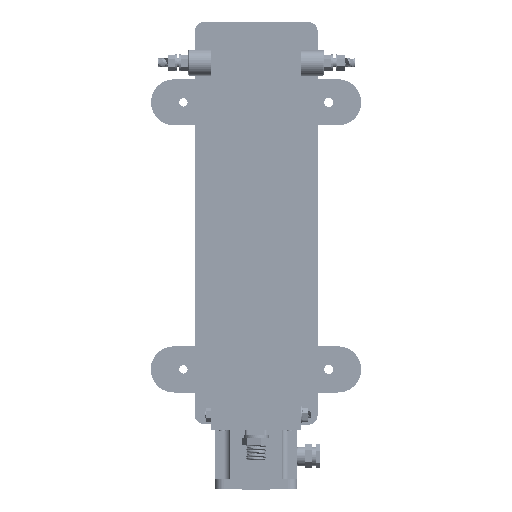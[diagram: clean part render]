
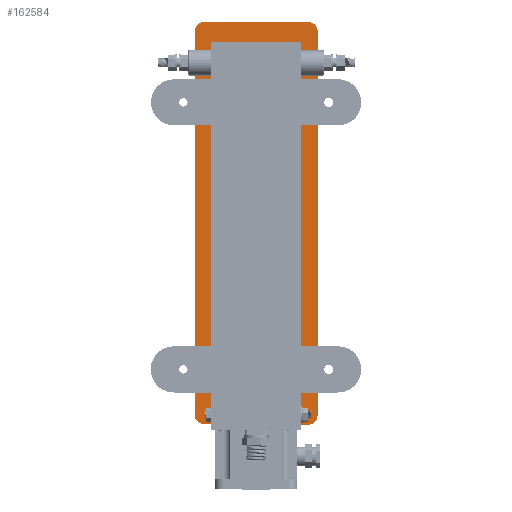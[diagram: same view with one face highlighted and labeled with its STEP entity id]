
A CAD part, left-side view. The second image highlights one B-rep face of the part: STEP entity #162584.
In plain terms, the highlighted planar face has unit normal (-1, 0, 0).
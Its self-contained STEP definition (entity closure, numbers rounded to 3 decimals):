
#2211 = CARTESIAN_POINT ( 'NONE',  ( 331.319, -372.657, 289.379 ) ) ;
#4894 = VECTOR ( 'NONE', #244620, 1000. ) ;
#8105 = CIRCLE ( 'NONE', #125494, 9.95 ) ;
#13247 = CARTESIAN_POINT ( 'NONE',  ( 331.319, -27.261, -94.53 ) ) ;
#13526 = LINE ( 'NONE', #234081, #171057 ) ;
#15995 = LINE ( 'NONE', #36580, #69657 ) ;
#18153 = CARTESIAN_POINT ( 'NONE',  ( 331.319, -37.261, 330.549 ) ) ;
#19092 = CARTESIAN_POINT ( 'NONE',  ( 331.319, -37.261, 320.549 ) ) ;
#24186 = ORIENTED_EDGE ( 'NONE', *, *, #243502, .F. ) ;
#24732 = ORIENTED_EDGE ( 'NONE', *, *, #101782, .F. ) ;
#27998 = CARTESIAN_POINT ( 'NONE',  ( 331.319, -142.261, -108.627 ) ) ;
#29601 = CARTESIAN_POINT ( 'NONE',  ( 331.319, -45.261, -104.53 ) ) ;
#29714 = LINE ( 'NONE', #119424, #268789 ) ;
#30027 = LINE ( 'NONE', #119736, #177214 ) ;
#30690 = DIRECTION ( 'NONE',  ( 0., 0., -1. ) ) ;
#32647 = DIRECTION ( 'NONE',  ( 0., 1., 0. ) ) ;
#34473 = CARTESIAN_POINT ( 'NONE',  ( 331.319, -160.261, -95.401 ) ) ;
#35147 = CARTESIAN_POINT ( 'NONE',  ( 331.319, -150.261, 330.549 ) ) ;
#36580 = CARTESIAN_POINT ( 'NONE',  ( 331.319, -150.261, -105.351 ) ) ;
#38581 = CARTESIAN_POINT ( 'NONE',  ( 331.319, -37.261, -104.53 ) ) ;
#38931 = EDGE_CURVE ( 'NONE', #142504, #286669, #147507, .T. ) ;
#43673 = ORIENTED_EDGE ( 'NONE', *, *, #138289, .F. ) ;
#45711 = CARTESIAN_POINT ( 'NONE',  ( 331.319, -150.261, -105.351 ) ) ;
#51232 = VERTEX_POINT ( 'NONE', #38581 ) ;
#56664 = CIRCLE ( 'NONE', #145886, 10. ) ;
#58039 = CARTESIAN_POINT ( 'NONE',  ( 331.319, -415.261, 308.549 ) ) ;
#63660 = VERTEX_POINT ( 'NONE', #29601 ) ;
#66053 = CARTESIAN_POINT ( 'NONE',  ( 331.319, -150.261, 320.549 ) ) ;
#69657 = VECTOR ( 'NONE', #177616, 1000. ) ;
#70016 = VERTEX_POINT ( 'NONE', #34473 ) ;
#71855 = DIRECTION ( 'NONE',  ( 0., 0., 1. ) ) ;
#83321 = DIRECTION ( 'NONE',  ( 0., 0., 1. ) ) ;
#88807 = VECTOR ( 'NONE', #30690, 1000. ) ;
#91997 = DIRECTION ( 'NONE',  ( -1., 0., 0. ) ) ;
#96966 = VERTEX_POINT ( 'NONE', #289291 ) ;
#99147 = DIRECTION ( 'NONE',  ( 0., 0., -1. ) ) ;
#101782 = EDGE_CURVE ( 'NONE', #70016, #142504, #8105, .T. ) ;
#104767 = CARTESIAN_POINT ( 'NONE',  ( 331.319, -150.311, -105.351 ) ) ;
#105404 = EDGE_CURVE ( 'NONE', #186355, #250405, #215352, .T. ) ;
#105913 = DIRECTION ( 'NONE',  ( 1., 0., 0. ) ) ;
#107054 = VERTEX_POINT ( 'NONE', #290313 ) ;
#107545 = ORIENTED_EDGE ( 'NONE', *, *, #221069, .F. ) ;
#109424 = CARTESIAN_POINT ( 'NONE',  ( 331.319, -27.261, 308.549 ) ) ;
#111126 = PLANE ( 'NONE',  #288334 ) ;
#116485 = VERTEX_POINT ( 'NONE', #18153 ) ;
#117699 = DIRECTION ( 'NONE',  ( 0., 0., 1. ) ) ;
#117944 = EDGE_CURVE ( 'NONE', #155013, #249712, #149193, .T. ) ;
#119424 = CARTESIAN_POINT ( 'NONE',  ( 331.319, -37.261, -104.53 ) ) ;
#119736 = CARTESIAN_POINT ( 'NONE',  ( 331.319, -160.261, 320.549 ) ) ;
#121479 = DIRECTION ( 'NONE',  ( 0., 0., 1. ) ) ;
#125048 = EDGE_CURVE ( 'NONE', #107054, #249712, #185288, .T. ) ;
#125494 = AXIS2_PLACEMENT_3D ( 'NONE', #284732, #261232, #83321 ) ;
#136949 = ORIENTED_EDGE ( 'NONE', *, *, #117944, .T. ) ;
#138289 = EDGE_CURVE ( 'NONE', #63660, #51232, #29714, .T. ) ;
#139160 = CARTESIAN_POINT ( 'NONE',  ( 331.319, -150.311, -95.401 ) ) ;
#139540 = CARTESIAN_POINT ( 'NONE',  ( 331.319, -45.261, 308.549 ) ) ;
#139974 = DIRECTION ( 'NONE',  ( 1., 0., 0. ) ) ;
#142504 = VERTEX_POINT ( 'NONE', #104767 ) ;
#142673 = VECTOR ( 'NONE', #197621, 1000. ) ;
#145886 = AXIS2_PLACEMENT_3D ( 'NONE', #19092, #105913, #71855 ) ;
#147507 = CIRCLE ( 'NONE', #185030, 9.95 ) ;
#148070 = EDGE_CURVE ( 'NONE', #155013, #63660, #165910, .T. ) ;
#149193 = LINE ( 'NONE', #58039, #142673 ) ;
#151010 = EDGE_CURVE ( 'NONE', #96966, #116485, #56664, .T. ) ;
#155013 = VERTEX_POINT ( 'NONE', #269578 ) ;
#155713 = DIRECTION ( 'NONE',  ( 1., 0., 0. ) ) ;
#156993 = ORIENTED_EDGE ( 'NONE', *, *, #148070, .F. ) ;
#160899 = CARTESIAN_POINT ( 'NONE',  ( 331.319, -142.261, 308.549 ) ) ;
#162001 = CARTESIAN_POINT ( 'NONE',  ( 331.319, -160.261, 320.549 ) ) ;
#162177 = CIRCLE ( 'NONE', #213848, 10. ) ;
#162584 = ADVANCED_FACE ( 'NONE', ( #246333 ), #111126, .T. ) ;
#165910 = LINE ( 'NONE', #139540, #88807 ) ;
#167830 = CARTESIAN_POINT ( 'NONE',  ( 331.319, -37.261, -94.53 ) ) ;
#171057 = VECTOR ( 'NONE', #32647, 1000. ) ;
#171276 = ORIENTED_EDGE ( 'NONE', *, *, #262113, .F. ) ;
#171795 = EDGE_CURVE ( 'NONE', #51232, #224709, #162177, .T. ) ;
#177214 = VECTOR ( 'NONE', #99147, 1000. ) ;
#177616 = DIRECTION ( 'NONE',  ( 0., 1., 0. ) ) ;
#182399 = EDGE_LOOP ( 'NONE', ( #136949, #195617, #24186, #289722, #24732, #107545, #203750, #269101, #283230, #171276, #214855, #43673, #156993 ) ) ;
#184109 = DIRECTION ( 'NONE',  ( 0., 1., 0. ) ) ;
#185030 = AXIS2_PLACEMENT_3D ( 'NONE', #139160, #214034, #121479 ) ;
#185288 = LINE ( 'NONE', #27998, #190940 ) ;
#186355 = VERTEX_POINT ( 'NONE', #35147 ) ;
#187608 = EDGE_CURVE ( 'NONE', #186355, #116485, #13526, .T. ) ;
#190940 = VECTOR ( 'NONE', #117699, 1000. ) ;
#195617 = ORIENTED_EDGE ( 'NONE', *, *, #125048, .F. ) ;
#197621 = DIRECTION ( 'NONE',  ( 0., -1., 0. ) ) ;
#203750 = ORIENTED_EDGE ( 'NONE', *, *, #105404, .F. ) ;
#213848 = AXIS2_PLACEMENT_3D ( 'NONE', #167830, #139974, #257540 ) ;
#214034 = DIRECTION ( 'NONE',  ( 1., 0., 0. ) ) ;
#214855 = ORIENTED_EDGE ( 'NONE', *, *, #171795, .F. ) ;
#215352 = CIRCLE ( 'NONE', #281101, 10. ) ;
#221069 = EDGE_CURVE ( 'NONE', #250405, #70016, #30027, .T. ) ;
#224709 = VERTEX_POINT ( 'NONE', #13247 ) ;
#234081 = CARTESIAN_POINT ( 'NONE',  ( 331.319, -435.261, 330.549 ) ) ;
#243502 = EDGE_CURVE ( 'NONE', #286669, #107054, #15995, .T. ) ;
#244620 = DIRECTION ( 'NONE',  ( 0., 0., 1. ) ) ;
#245379 = DIRECTION ( 'NONE',  ( 0., 0., -1. ) ) ;
#246333 = FACE_OUTER_BOUND ( 'NONE', #182399, .T. ) ;
#247520 = LINE ( 'NONE', #109424, #4894 ) ;
#249712 = VERTEX_POINT ( 'NONE', #160899 ) ;
#250405 = VERTEX_POINT ( 'NONE', #162001 ) ;
#257540 = DIRECTION ( 'NONE',  ( 0., 0., 1. ) ) ;
#261232 = DIRECTION ( 'NONE',  ( 1., 0., 0. ) ) ;
#262113 = EDGE_CURVE ( 'NONE', #224709, #96966, #247520, .T. ) ;
#268789 = VECTOR ( 'NONE', #184109, 1000. ) ;
#269101 = ORIENTED_EDGE ( 'NONE', *, *, #187608, .T. ) ;
#269578 = CARTESIAN_POINT ( 'NONE',  ( 331.319, -45.261, 308.549 ) ) ;
#271314 = DIRECTION ( 'NONE',  ( 0., 0., 1. ) ) ;
#281101 = AXIS2_PLACEMENT_3D ( 'NONE', #66053, #155713, #245379 ) ;
#283230 = ORIENTED_EDGE ( 'NONE', *, *, #151010, .F. ) ;
#284732 = CARTESIAN_POINT ( 'NONE',  ( 331.319, -150.311, -95.401 ) ) ;
#286669 = VERTEX_POINT ( 'NONE', #45711 ) ;
#288334 = AXIS2_PLACEMENT_3D ( 'NONE', #2211, #91997, #271314 ) ;
#289291 = CARTESIAN_POINT ( 'NONE',  ( 331.319, -27.261, 320.549 ) ) ;
#289722 = ORIENTED_EDGE ( 'NONE', *, *, #38931, .F. ) ;
#290313 = CARTESIAN_POINT ( 'NONE',  ( 331.319, -142.261, -105.351 ) ) ;
